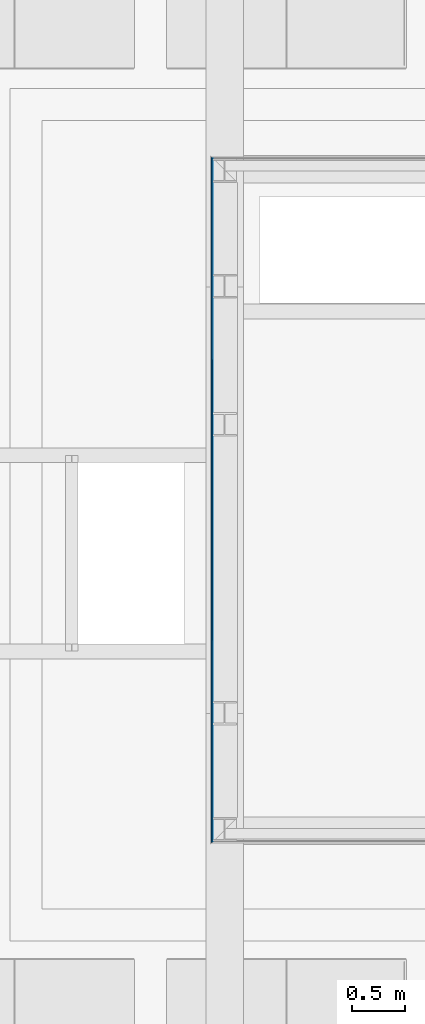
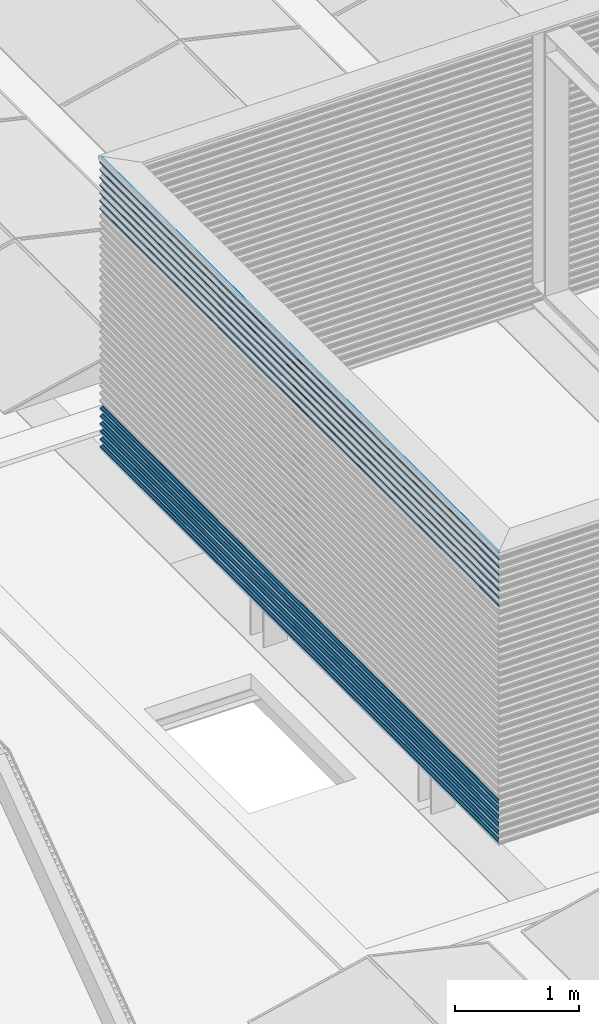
# One storey, part 25 of 63: 14 building element parts, 1 element without a shape of its own.
"""IFC2X3 building model written with IfcOpenShell, lengths in millimetres."""

from ifc_helpers import new_model, entity, si_unit, converted_unit, derived_unit, money_unit, direction, frame, origin_with_axes, place, context, subcontext, project, spatial, faceted_brep, material, type_object, element, aggregate, save


model = new_model("IFC2X3")

# Units and contexts
model_context = context("Model", 3, precision=0.01, world=origin_with_axes(), true_north=direction((0.0, 1.0)))
body_context = subcontext(model_context, "Body", "Model", "MODEL_VIEW")
ifc_project = project(units=[si_unit("LENGTHUNIT", "METRE", prefix="MILLI"), si_unit("AREAUNIT", "SQUARE_METRE"), si_unit("VOLUMEUNIT", "CUBIC_METRE"), converted_unit("PLANEANGLEUNIT", "DEGREE", entity("IfcPlaneAngleMeasure", 0.0174532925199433), si_unit("PLANEANGLEUNIT", "RADIAN"), dimensions=[0, 0, 0, 0, 0, 0, 0]), money_unit("EUR"), converted_unit("TIMEUNIT", "Year", entity("IfcTimeMeasure", 31557600.0), si_unit("TIMEUNIT", "SECOND"), dimensions=[0, 0, 1, 0, 0, 0, 0]), si_unit("MASSUNIT", "GRAM", prefix="KILO"), si_unit("THERMODYNAMICTEMPERATUREUNIT", "DEGREE_CELSIUS"), si_unit("LUMINOUSINTENSITYUNIT", "LUMEN"), si_unit("ENERGYUNIT", "JOULE", prefix="MEGA"), derived_unit("THERMALCONDUCTANCEUNIT", [(si_unit("POWERUNIT", "WATT"), 1), (si_unit("LENGTHUNIT", "METRE"), -1), (si_unit("THERMODYNAMICTEMPERATUREUNIT", "KELVIN"), -1)]), derived_unit("SPECIFICHEATCAPACITYUNIT", [(si_unit("ENERGYUNIT", "JOULE"), 1), (si_unit("MASSUNIT", "GRAM", prefix="KILO"), -1), (si_unit("THERMODYNAMICTEMPERATUREUNIT", "KELVIN"), -1)]), derived_unit("MASSDENSITYUNIT", [(si_unit("MASSUNIT", "GRAM", prefix="KILO"), 1), (si_unit("VOLUMEUNIT", "CUBIC_METRE"), -1)])], contexts=[model_context])

# Site, building, storey
site_placement = place(None, origin_with_axes())
site = spatial("IfcSite", under=ifc_project, at=site_placement, Name="<site naam>", CompositionType="ELEMENT")
building_placement = place(site_placement, origin_with_axes())
building = spatial("IfcBuilding", under=site, at=building_placement, Name="<Naam gebouw>", CompositionType="ELEMENT")
storey_placement = place(building_placement, frame((0.0, 0.0, 12770.0), z_axis=(0.0, 0.0, 1.0), x_axis=(1.0, 0.0, 0.0)))
storey = spatial("IfcBuildingStorey", under=building, at=storey_placement, Name="04 4e verdieping", CompositionType="ELEMENT", Elevation=12770.0)

# Wall, building element parts
wall_type = type_object("IfcWallType", Name="Gevelbeplating golf 18 x 2900", PredefinedType="NOTDEFINED")
wall_placement = place(storey_placement, frame((15871.99992141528, 13218.00009009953, 299.9552842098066), z_axis=(0.0, 0.0, 1.0), x_axis=(0.0, -1.0, 0.0)))
wall = element("IfcWall", 1, at=wall_placement, inside=storey, type_object=wall_type, Name="47_Binnenwand_Gevelbeplating")
ifc_material = material(Name="gevelafwerking type 3 - Aluminium RAL1036")
building_element_part_1_placement = place(wall_placement, origin_with_axes())
building_element_part_1 = element("IfcBuildingElementPart", 2, at=building_element_part_1_placement, material=ifc_material, Name="gevelafwerking type 3 - Aluminium RAL1036", context=body_context, shape_type="Brep", body=[
    faceted_brep([(17.99993332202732, 16.99993094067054, 2356.0), (17.99993332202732, 17.99993332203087, 2356.0), (6418.000235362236, 17.99993332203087, 2356.0), (6418.000235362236, 16.99993094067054, 2356.0), (15.62919619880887, 15.62919619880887, 2366.684488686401), (15.69993152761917, 14.77513041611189, 2366.365697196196), (15.62919619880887, 14.54417477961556, 2366.684488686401), (6420.370972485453, 15.62919619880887, 2366.684488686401), (6420.370972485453, 14.54417477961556, 2366.684488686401), (6420.300237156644, 14.77513041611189, 2366.365697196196), (6426.602118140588, 8.555185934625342, 2374.951121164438), (9.398050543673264, 8.555185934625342, 2374.951121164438), (9.041516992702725, 9.041516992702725, 2375.42412115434), (9.041516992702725, 8.2094871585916, 2375.42412115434), (6426.958651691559, 9.041516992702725, 2375.42412115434), (6426.958651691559, 8.2094871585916, 2375.42412115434), (6432.660115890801, 2.257292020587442, 2383.568220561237), (3.340052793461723, 2.257292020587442, 2383.568220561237), (3.11641171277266, 3.116411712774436, 2383.887674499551), (3.11641171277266, 2.188158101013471, 2383.887674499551), (6432.883756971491, 3.116411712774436, 2383.887674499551), (6432.883756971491, 2.188158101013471, 2383.887674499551), (6435.000235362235, -6.667796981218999e-05, 2394.0), (0.9999333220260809, -6.667796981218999e-05, 2394.0), (0.9999333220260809, 0.9999333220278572, 2394.0), (6435.000235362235, 0.9999333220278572, 2394.0)], [[[0, 1, 2, 3]], [[4, 1, 0, 5, 6]], [[1, 4, 7, 2]], [[3, 2, 7, 8, 9]], [[5, 0, 3, 9]], [[6, 5, 9, 8, 10, 11]], [[12, 4, 6, 11, 13]], [[4, 12, 14, 7]], [[7, 14, 15, 10, 8]], [[13, 11, 10, 15, 16, 17]], [[18, 12, 13, 17, 19]], [[12, 18, 20, 14]], [[14, 20, 21, 16, 15]], [[19, 17, 16, 21, 22, 23]], [[24, 18, 19, 23]], [[18, 24, 25, 20]], [[20, 25, 22, 21]], [[24, 23, 22, 25]]]),
])
building_element_part_2_placement = place(wall_placement, origin_with_axes())
building_element_part_2 = element("IfcBuildingElementPart", 3, at=building_element_part_2_placement, material=ifc_material, Name="gevelafwerking type 3 - Aluminium RAL1036", context=body_context, shape_type="Brep", body=[
    faceted_brep([(17.99993094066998, 16.99992855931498, 2432.0), (17.99993094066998, 17.99993094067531, 2432.0), (6418.000237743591, 17.99993094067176, 2432.0), (6418.000237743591, 16.99992855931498, 2432.0), (15.62919381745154, 15.62919381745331, 2442.6844886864), (15.69993278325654, 14.77512803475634, 2442.365680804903), (15.62919381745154, 14.54416052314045, 2442.6844886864), (6420.37097486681, 15.62919381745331, 2442.6844886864), (6420.300235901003, 14.77512803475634, 2442.365680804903), (6420.37097486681, 14.54416052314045, 2442.6844886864), (6426.602108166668, 8.555183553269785, 2450.951104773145), (9.39806051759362, 8.555183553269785, 2450.951104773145), (9.041514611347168, 9.041514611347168, 2451.424121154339), (9.041514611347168, 8.209472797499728, 2451.424121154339), (6426.958654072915, 9.041514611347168, 2451.424121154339), (6426.958654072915, 8.209472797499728, 2451.424121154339), (6432.660106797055, 2.257289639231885, 2459.568204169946), (3.340061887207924, 2.257289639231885, 2459.568204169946), (3.116409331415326, 3.116409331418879, 2459.887674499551), (3.116409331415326, 2.188161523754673, 2459.887674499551), (6432.883759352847, 3.116409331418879, 2459.887674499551), (6432.883759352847, 2.188161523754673, 2459.887674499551), (6435.000237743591, -6.905932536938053e-05, 2469.999999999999), (0.9999309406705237, -6.905932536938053e-05, 2469.999999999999), (0.9999309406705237, 0.9999309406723, 2469.999999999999), (6435.000237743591, 0.9999309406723, 2469.999999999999)], [[[0, 1, 2, 3]], [[4, 1, 0, 5, 6]], [[1, 4, 7, 2]], [[8, 3, 2, 7, 9]], [[5, 0, 3, 8]], [[6, 5, 8, 9, 10, 11]], [[12, 4, 6, 11, 13]], [[4, 12, 14, 7]], [[9, 7, 14, 15, 10]], [[13, 11, 10, 15, 16, 17]], [[18, 12, 13, 17, 19]], [[12, 18, 20, 14]], [[15, 14, 20, 21, 16]], [[19, 17, 16, 21, 22, 23]], [[24, 18, 19, 23]], [[18, 24, 25, 20]], [[21, 20, 25, 22]], [[24, 23, 22, 25]]]),
])
building_element_part_3_placement = place(wall_placement, origin_with_axes())
building_element_part_3 = element("IfcBuildingElementPart", 4, at=building_element_part_3_placement, material=ifc_material, Name="gevelafwerking type 3 - Aluminium RAL1036", context=body_context, shape_type="Brep", body=[
    faceted_brep([(17.99992617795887, 16.99992379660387, 2659.999999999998), (17.99992617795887, 17.99992617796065, 2659.999999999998), (6418.000242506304, 17.99992617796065, 2659.999999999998), (6418.000242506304, 16.99992379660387, 2659.999999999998), (15.62918905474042, 15.6291890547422, 2670.6844886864), (15.69992934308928, 14.77512327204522, 2670.365674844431), (15.62918905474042, 14.54415144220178, 2670.6844886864), (6420.370979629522, 15.6291890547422, 2670.6844886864), (6420.300239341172, 14.77512327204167, 2670.365674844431), (6420.370979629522, 14.54415144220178, 2670.6844886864), (6426.602108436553, 8.55517879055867, 2678.951098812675), (9.398060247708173, 8.55517879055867, 2678.951098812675), (9.041509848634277, 9.041509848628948, 2679.424121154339), (9.041509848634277, 8.209463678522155, 2679.424121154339), (6426.958658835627, 9.041509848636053, 2679.424121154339), (6426.958658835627, 8.209463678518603, 2679.424121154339), (6432.660107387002, 2.257284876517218, 2687.568198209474), (3.340061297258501, 2.257284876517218, 2687.568198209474), (3.116404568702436, 3.116404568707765, 2687.887674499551), (3.116404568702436, 2.188155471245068, 2687.887674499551), (6432.883764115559, 3.116404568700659, 2687.887674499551), (6432.883764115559, 2.188155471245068, 2687.887674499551), (6435.000242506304, -7.38220400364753e-05, 2697.999999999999), (0.999926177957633, -7.382203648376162e-05, 2697.999999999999), (0.999926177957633, 0.9999261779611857, 2697.999999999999), (6435.000242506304, 0.9999261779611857, 2697.999999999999)], [[[0, 1, 2, 3]], [[4, 1, 0, 5, 6]], [[1, 4, 7, 2]], [[8, 3, 2, 7, 9]], [[5, 0, 3, 8]], [[6, 5, 8, 9, 10, 11]], [[12, 4, 6, 11, 13]], [[4, 12, 14, 7]], [[9, 7, 14, 15, 10]], [[13, 11, 10, 15, 16, 17]], [[18, 12, 13, 17, 19]], [[12, 18, 20, 14]], [[15, 14, 20, 21, 16]], [[19, 17, 16, 21, 22, 23]], [[24, 18, 19, 23]], [[18, 24, 25, 20]], [[21, 20, 25, 22]], [[24, 23, 22, 25]]]),
])
building_element_part_4_placement = place(wall_placement, origin_with_axes())
building_element_part_4 = element("IfcBuildingElementPart", 5, at=building_element_part_4_placement, material=ifc_material, Name="gevelafwerking type 3 - Aluminium RAL1036", context=body_context, shape_type="Brep", body=[
    faceted_brep([(17.99992855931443, 16.99992617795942, 2507.999999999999), (17.99992855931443, 17.99992855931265, 2507.999999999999), (6418.000240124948, 17.99992855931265, 2507.999999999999), (6418.000240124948, 16.99992617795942, 2507.999999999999), (15.62919143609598, 15.62919143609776, 2518.6844886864), (15.69993403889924, 14.77512565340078, 2518.365664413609), (15.62919143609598, 14.54414626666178, 2518.6844886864), (6420.370977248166, 15.62919143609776, 2518.6844886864), (6420.300234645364, 14.77512565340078, 2518.365664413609), (6420.370977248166, 14.54414626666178, 2518.6844886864), (6426.602098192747, 8.555181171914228, 2526.951088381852), (9.398070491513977, 8.555181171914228, 2526.951088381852), (9.04151222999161, 9.04151222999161, 2527.42412115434), (9.04151222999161, 8.20949001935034, 2527.42412115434), (6426.958656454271, 9.04151222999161, 2527.42412115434), (6426.958656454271, 8.20949001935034, 2527.42412115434), (6432.660127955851, 2.257287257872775, 2535.568230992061), (3.340040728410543, 2.257287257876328, 2535.568230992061), (3.116406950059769, 3.116406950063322, 2535.88767449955), (3.116406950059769, 2.188155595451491, 2535.88767449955), (6432.883761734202, 3.116406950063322, 2535.88767449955), (6432.883761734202, 2.188155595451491, 2535.88767449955), (6435.000240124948, -7.144068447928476e-05, 2546.0), (0.9999285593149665, -7.144068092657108e-05, 2546.0), (0.9999285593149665, 0.9999285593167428, 2546.0), (6435.000240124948, 0.9999285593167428, 2546.0)], [[[0, 1, 2, 3]], [[4, 1, 0, 5, 6]], [[1, 4, 7, 2]], [[8, 3, 2, 7, 9]], [[5, 0, 3, 8]], [[6, 5, 8, 9, 10, 11]], [[12, 4, 6, 11, 13]], [[4, 12, 14, 7]], [[9, 7, 14, 15, 10]], [[13, 11, 10, 15, 16, 17]], [[18, 12, 13, 17, 19]], [[12, 18, 20, 14]], [[15, 14, 20, 21, 16]], [[19, 17, 16, 21, 22, 23]], [[24, 18, 19, 23]], [[18, 24, 25, 20]], [[21, 20, 25, 22]], [[24, 23, 22, 25]]]),
])
building_element_part_5_placement = place(wall_placement, origin_with_axes())
building_element_part_5 = element("IfcBuildingElementPart", 6, at=building_element_part_5_placement, material=ifc_material, Name="gevelafwerking type 3 - Aluminium RAL1036", context=body_context, shape_type="Brep", body=[
    faceted_brep([(17.99992617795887, 16.99992379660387, 2584.0), (17.99992617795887, 17.99992617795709, 2584.0), (6418.000242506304, 17.9999261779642, 2584.0), (6418.000242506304, 16.99992379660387, 2584.0), (15.62918905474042, 15.6291890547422, 2594.684488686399), (15.69992570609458, 14.77512327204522, 2594.365691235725), (15.62918905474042, 14.54416331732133, 2594.684488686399), (6420.370979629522, 15.6291890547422, 2594.684488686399), (6420.300242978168, 14.77512327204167, 2594.365691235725), (6420.370979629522, 14.54416331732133, 2594.684488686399), (6426.602120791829, 8.555178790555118, 2602.951115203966), (9.39804789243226, 8.55517879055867, 2602.951115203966), (9.041509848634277, 9.041509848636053, 2603.424121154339), (9.041509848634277, 8.209475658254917, 2603.424121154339), (6426.958658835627, 9.041509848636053, 2603.424121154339), (6426.958658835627, 8.209475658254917, 2603.424121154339), (6432.660118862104, 2.257284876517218, 2611.568214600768), (3.340049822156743, 2.257284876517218, 2611.568214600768), (3.116404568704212, 3.116404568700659, 2611.887674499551), (3.116404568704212, 2.18815901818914, 2611.887674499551), (6432.883764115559, 3.116404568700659, 2611.887674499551), (6432.883764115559, 2.18815901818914, 2611.887674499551), (6435.000242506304, -7.38220400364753e-05, 2622.0), (0.999926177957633, -7.382203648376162e-05, 2622.0), (0.999926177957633, 0.9999261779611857, 2622.0), (6435.000242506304, 0.9999261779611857, 2622.0)], [[[0, 1, 2, 3]], [[4, 1, 0, 5, 6]], [[1, 4, 7, 2]], [[8, 3, 2, 7, 9]], [[5, 0, 3, 8]], [[6, 5, 8, 9, 10, 11]], [[12, 4, 6, 11, 13]], [[4, 12, 14, 7]], [[9, 7, 14, 15, 10]], [[13, 11, 10, 15, 16, 17]], [[18, 12, 13, 17, 19]], [[12, 18, 20, 14]], [[15, 14, 20, 21, 16]], [[19, 17, 16, 21, 22, 23]], [[24, 18, 19, 23]], [[18, 24, 25, 20]], [[21, 20, 25, 22]], [[24, 23, 22, 25]]]),
])
building_element_part_6_placement = place(wall_placement, origin_with_axes())
building_element_part_6 = element("IfcBuildingElementPart", 7, at=building_element_part_6_placement, material=ifc_material, Name="gevelafwerking type 3 - Aluminium RAL1036", context=body_context, shape_type="Brep", body=[
    faceted_brep([(17.99992379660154, 16.99992141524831, 2735.999999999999), (17.99992379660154, 17.99992379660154, 2735.999999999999), (6418.000244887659, 17.99992379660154, 2735.999999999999), (6418.000244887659, 16.99992141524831, 2735.999999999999), (15.62918667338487, 15.62918667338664, 2746.6844886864), (15.69992101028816, 14.77512089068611, 2746.365701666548), (15.62918667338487, 14.54416849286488, 2746.6844886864), (6420.370982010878, 15.62918667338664, 2746.6844886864), (6420.370982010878, 14.54416849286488, 2746.6844886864), (6420.300247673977, 14.77512089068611, 2746.365701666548), (6426.602131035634, 8.555176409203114, 2754.95112563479), (9.398037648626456, 8.555176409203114, 2754.95112563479), (9.04150746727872, 9.041507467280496, 2755.424121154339), (9.04150746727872, 8.209480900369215, 2755.424121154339), (6426.958661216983, 9.041507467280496, 2755.424121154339), (6426.958661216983, 8.209480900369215, 2755.424121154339), (6432.660128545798, 2.257282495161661, 2763.568225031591), (3.340040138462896, 2.257282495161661, 2763.568225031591), (3.116402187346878, 3.116402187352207, 2763.887674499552), (3.116402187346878, 2.188149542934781, 2763.887674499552), (6432.883766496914, 3.116402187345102, 2763.887674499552), (6432.883766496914, 2.188149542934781, 2763.887674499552), (6435.00024488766, -7.620339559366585e-05, 2773.999999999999), (0.9999237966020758, -7.620339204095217e-05, 2773.999999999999), (0.9999237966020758, 0.9999237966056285, 2773.999999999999), (6435.00024488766, 0.9999237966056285, 2773.999999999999)], [[[0, 1, 2, 3]], [[4, 1, 0, 5, 6]], [[1, 4, 7, 2]], [[3, 2, 7, 8, 9]], [[5, 0, 3, 9]], [[6, 5, 9, 8, 10, 11]], [[12, 4, 6, 11, 13]], [[4, 12, 14, 7]], [[7, 14, 15, 10, 8]], [[13, 11, 10, 15, 16, 17]], [[18, 12, 13, 17, 19]], [[12, 18, 20, 14]], [[14, 20, 21, 16, 15]], [[19, 17, 16, 21, 22, 23]], [[24, 18, 19, 23]], [[18, 24, 25, 20]], [[20, 25, 22, 21]], [[24, 23, 22, 25]]]),
])
building_element_part_7_placement = place(wall_placement, origin_with_axes())
building_element_part_7 = element("IfcBuildingElementPart", 8, at=building_element_part_7_placement, material=ifc_material, Name="gevelafwerking type 3 - Aluminium RAL1036", context=body_context, shape_type="Brep", body=[
    faceted_brep([(15.62926287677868, 15.62926287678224, 65.31551131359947), (17.99999999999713, 18.00000000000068, 76.00000000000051), (6418.000168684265, 18.00000000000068, 76.00000000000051), (6420.370905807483, 15.62926287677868, 65.31551131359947), (17.99999999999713, 16.9999976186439, 76.00000000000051), (15.62926287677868, 14.5442441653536, 65.31551131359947), (15.69999688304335, 14.7751970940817, 65.634296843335), (6418.000168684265, 16.9999976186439, 76.00000000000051), (6420.300171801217, 14.7751970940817, 65.634296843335), (6420.370905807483, 14.5442441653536, 65.31551131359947), (9.041583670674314, 9.04158367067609, 56.57587884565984), (6426.958585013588, 9.041583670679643, 56.57587884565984), (9.041583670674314, 8.209560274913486, 56.57587884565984), (9.39811272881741, 8.555252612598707, 57.04887287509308), (6426.602055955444, 8.555252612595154, 57.04887287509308), (6426.958585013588, 8.209560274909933, 56.57587884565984), (3.116478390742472, 3.116478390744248, 48.11232550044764), (6432.88369029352, 3.116478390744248, 48.11232550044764), (3.116478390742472, 2.188232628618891, 48.11232550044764), (3.340115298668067, 2.257358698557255, 48.43177347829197), (6432.660053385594, 2.257358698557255, 48.43177347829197), (6432.88369029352, 2.188232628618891, 48.11232550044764), (0.9999999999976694, 0.9999999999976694, 38.00000000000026), (6435.000168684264, 0.9999999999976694, 38.00000000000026), (0.9999999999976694, 0.0, 38.00000000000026), (6435.000168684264, 0.0, 38.00000000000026)], [[[0, 1, 2, 3]], [[4, 1, 0, 5, 6]], [[1, 4, 7, 2]], [[3, 2, 7, 8, 9]], [[10, 0, 3, 11]], [[0, 10, 12, 13, 5]], [[5, 13, 14, 9, 8, 6]], [[4, 6, 8, 7]], [[11, 3, 9, 14, 15]], [[16, 10, 11, 17]], [[10, 16, 18, 19, 12]], [[12, 19, 20, 15, 14, 13]], [[17, 11, 15, 20, 21]], [[22, 16, 17, 23]], [[16, 22, 24, 18]], [[18, 24, 25, 21, 20, 19]], [[23, 17, 21, 25]], [[24, 22, 23, 25]]]),
])
building_element_part_8_placement = place(wall_placement, origin_with_axes())
building_element_part_8 = element("IfcBuildingElementPart", 9, at=building_element_part_8_placement, material=ifc_material, Name="gevelafwerking type 3 - Aluminium RAL1036", context=body_context, shape_type="Brep", body=[
    faceted_brep([(17.99992141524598, 16.99991903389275, 2812.0), (17.99992141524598, 17.99992141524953, 2812.0), (6418.000247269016, 17.99992141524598, 2812.0), (6418.000247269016, 16.99991903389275, 2812.0), (15.62918429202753, 15.62918429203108, 2822.684488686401), (15.69992226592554, 14.77511850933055, 2822.365685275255), (15.62918429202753, 14.54415423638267, 2822.684488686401), (6420.370984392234, 15.62918429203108, 2822.684488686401), (6420.370984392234, 14.54415423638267, 2822.684488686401), (6420.300246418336, 14.77511850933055, 2822.365685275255), (6426.602121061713, 8.555174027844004, 2830.951109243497), (9.398047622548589, 8.555174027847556, 2830.951109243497), (9.041505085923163, 9.041505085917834, 2831.42412115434), (9.041505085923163, 8.209466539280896, 2831.42412115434), (6426.95866359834, 9.041505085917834, 2831.42412115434), (6426.95866359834, 8.209466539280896, 2831.42412115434), (6432.660119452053, 2.257280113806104, 2839.568208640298), (3.340049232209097, 2.257280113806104, 2839.568208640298), (3.116399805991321, 3.116399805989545, 2839.88767449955), (3.116399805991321, 2.188152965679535, 2839.88767449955), (6432.883768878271, 3.116399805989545, 2839.88767449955), (6432.883768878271, 2.188152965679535, 2839.88767449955), (6435.000247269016, -7.858475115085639e-05, 2850.0), (0.9999214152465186, -7.858475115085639e-05, 2850.0), (0.9999214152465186, 0.9999214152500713, 2850.0), (6435.000247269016, 0.9999214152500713, 2850.0)], [[[0, 1, 2, 3]], [[4, 1, 0, 5, 6]], [[1, 4, 7, 2]], [[3, 2, 7, 8, 9]], [[5, 0, 3, 9]], [[6, 5, 9, 8, 10, 11]], [[12, 4, 6, 11, 13]], [[4, 12, 14, 7]], [[7, 14, 15, 10, 8]], [[13, 11, 10, 15, 16, 17]], [[18, 12, 13, 17, 19]], [[12, 18, 20, 14]], [[14, 20, 21, 16, 15]], [[19, 17, 16, 21, 22, 23]], [[24, 18, 19, 23]], [[18, 24, 25, 20]], [[20, 25, 22, 21]], [[24, 23, 22, 25]]]),
])
building_element_part_9_placement = place(wall_placement, origin_with_axes())
building_element_part_9 = element("IfcBuildingElementPart", 10, at=building_element_part_9_placement, material=ifc_material, Name="gevelafwerking type 3 - Aluminium RAL1036", context=body_context, shape_type="Brep", body=[
    faceted_brep([(6418.000247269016, 16.99991903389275, 2888.0), (17.99992141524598, 16.99991903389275, 2888.0), (17.99992141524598, 17.99992141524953, 2888.0), (6418.000247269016, 17.99992141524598, 2888.0), (6421.023737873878, 13.97637062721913, 2900.0), (14.97643081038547, 13.97637062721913, 2900.0), (14.97643081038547, 14.97643081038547, 2900.0), (6421.023737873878, 14.97643081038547, 2900.0)], [[[0, 1, 2, 3]], [[4, 5, 1, 0]], [[5, 6, 2, 1]], [[3, 2, 6, 7]], [[4, 0, 3, 7]], [[7, 6, 5, 4]]]),
])
building_element_part_10_placement = place(wall_placement, origin_with_axes())
building_element_part_10 = element("IfcBuildingElementPart", 11, at=building_element_part_10_placement, material=ifc_material, Name="gevelafwerking type 3 - Aluminium RAL1036", context=body_context, shape_type="Brep", body=[
    faceted_brep([(15.62925811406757, 15.62925811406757, 217.3155113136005), (17.99999523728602, 17.99999523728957, 227.9999999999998), (6418.000173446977, 17.99999523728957, 227.9999999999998), (6420.370910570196, 15.62925811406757, 217.3155113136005), (17.99999523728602, 16.99999285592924, 227.9999999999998), (15.62925811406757, 14.54423184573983, 217.3155113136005), (15.69999443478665, 14.77519233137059, 217.6343072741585), (6418.000173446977, 16.99999285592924, 227.9999999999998), (6420.370910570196, 14.54423184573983, 217.3155113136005), (6420.300174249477, 14.77519233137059, 217.6343072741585), (9.041578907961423, 9.041578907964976, 208.5758788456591), (6426.9585897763, 9.041578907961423, 208.5758788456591), (9.041578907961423, 8.20954788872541, 208.5758788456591), (9.398115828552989, 8.55524784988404, 209.0488833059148), (6426.60205285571, 8.55524784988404, 209.0488833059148), (6426.9585897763, 8.209547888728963, 208.5758788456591), (3.116473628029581, 3.116473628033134, 200.1123255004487), (6432.883695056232, 3.116473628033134, 200.1123255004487), (3.116473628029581, 2.188225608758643, 200.1123255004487), (3.340117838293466, 2.25735393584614, 200.4317839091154), (6432.660050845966, 2.25735393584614, 200.4317839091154), (6432.883695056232, 2.188225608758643, 200.1123255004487), (0.9999952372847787, 0.999995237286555, 189.9999999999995), (6435.000173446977, 0.999995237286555, 189.9999999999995), (0.9999952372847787, -4.762711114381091e-06, 189.9999999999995), (6435.000173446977, -4.762711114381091e-06, 189.9999999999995)], [[[0, 1, 2, 3]], [[4, 1, 0, 5, 6]], [[1, 4, 7, 2]], [[8, 3, 2, 7, 9]], [[10, 0, 3, 11]], [[0, 10, 12, 13, 5]], [[5, 13, 14, 8, 9, 6]], [[4, 6, 9, 7]], [[15, 11, 3, 8, 14]], [[16, 10, 11, 17]], [[10, 16, 18, 19, 12]], [[12, 19, 20, 15, 14, 13]], [[21, 17, 11, 15, 20]], [[22, 16, 17, 23]], [[16, 22, 24, 18]], [[18, 24, 25, 21, 20, 19]], [[25, 23, 17, 21]], [[24, 22, 23, 25]]]),
])
building_element_part_11_placement = place(wall_placement, origin_with_axes())
building_element_part_11 = element("IfcBuildingElementPart", 12, at=building_element_part_11_placement, material=ifc_material, Name="gevelafwerking type 3 - Aluminium RAL1036", context=body_context, shape_type="Brep", body=[
    faceted_brep([(15.62926049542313, 15.62926049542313, 141.3155113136), (17.99999761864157, 17.99999761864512, 151.9999999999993), (6418.000171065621, 17.99999761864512, 151.9999999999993), (6420.370908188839, 15.62926049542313, 141.3155113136), (17.99999761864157, 16.99999523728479, 151.9999999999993), (15.62926049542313, 14.54422235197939, 141.3155113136), (15.70000045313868, 14.77519471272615, 141.6343236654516), (6418.000171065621, 16.99999523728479, 151.9999999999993), (6420.370908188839, 14.54422235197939, 141.3155113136), (6420.300168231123, 14.77519471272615, 141.6343236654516), (9.041581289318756, 9.041581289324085, 132.5758788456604), (6426.958587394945, 9.041581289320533, 132.5758788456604), (9.041581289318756, 8.209538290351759, 132.5758788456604), (9.398130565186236, 8.555250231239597, 133.0488996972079), (6426.602038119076, 8.555250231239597, 133.0488996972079), (6426.958587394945, 8.209538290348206, 132.5758788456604), (3.116476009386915, 3.116476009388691, 124.1123255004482), (6432.883692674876, 3.116476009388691, 124.1123255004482), (3.116476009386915, 2.188224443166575, 124.1123255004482), (3.340131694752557, 2.257356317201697, 124.4318003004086), (6432.66003698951, 2.257356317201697, 124.4318003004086), (6432.883692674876, 2.188224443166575, 124.1123255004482), (0.9999976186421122, 0.9999976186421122, 114.0000000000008), (6435.000171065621, 0.9999976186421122, 114.0000000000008), (0.9999976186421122, -2.381355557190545e-06, 114.0000000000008), (6435.000171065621, -2.381362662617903e-06, 114.0000000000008)], [[[0, 1, 2, 3]], [[4, 1, 0, 5, 6]], [[1, 4, 7, 2]], [[8, 3, 2, 7, 9]], [[10, 0, 3, 11]], [[0, 10, 12, 13, 5]], [[5, 13, 14, 8, 9, 6]], [[4, 6, 9, 7]], [[15, 11, 3, 8, 14]], [[16, 10, 11, 17]], [[10, 16, 18, 19, 12]], [[12, 19, 20, 15, 14, 13]], [[21, 17, 11, 15, 20]], [[22, 16, 17, 23]], [[16, 22, 24, 18]], [[18, 24, 25, 21, 20, 19]], [[25, 23, 17, 21]], [[24, 22, 23, 25]]]),
])
building_element_part_12_placement = place(wall_placement, origin_with_axes())
building_element_part_12 = element("IfcBuildingElementPart", 13, at=building_element_part_12_placement, material=ifc_material, Name="gevelafwerking type 3 - Aluminium RAL1036", context=body_context, shape_type="Brep", body=[
    faceted_brep([(15.62925335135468, 15.62925335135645, 445.3155113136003), (17.99999047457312, 17.9999904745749, 455.9999999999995), (6418.000178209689, 17.9999904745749, 455.9999999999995), (6420.370915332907, 15.62925335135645, 445.3155113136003), (17.99999047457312, 16.99998809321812, 455.9999999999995), (15.62925335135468, 14.54423140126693, 445.3155113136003), (15.6999883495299, 14.77518756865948, 445.634301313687), (6418.000178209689, 16.99998809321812, 455.9999999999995), (6420.300180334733, 14.77518756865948, 445.634301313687), (6420.370915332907, 14.54423140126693, 445.3155113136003), (9.041574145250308, 9.041574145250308, 436.5758788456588), (6426.958594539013, 9.041574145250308, 436.5758788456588), (9.041574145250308, 8.209547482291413, 436.5758788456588), (9.398106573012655, 8.555243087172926, 437.0488773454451), (6426.602062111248, 8.555243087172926, 437.0488773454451), (6426.958594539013, 8.209547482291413, 436.5758788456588), (3.116468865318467, 3.11646886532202, 428.1123255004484), (6432.883699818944, 3.11646886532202, 428.1123255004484), (3.116468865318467, 2.188222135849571, 428.1123255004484), (3.340108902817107, 2.257349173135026, 428.431777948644), (6432.660059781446, 2.257349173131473, 428.431777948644), (6432.883699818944, 2.188222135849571, 428.1123255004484), (0.9999904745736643, 0.9999904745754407, 417.9999999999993), (6435.00017820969, 0.9999904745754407, 417.9999999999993), (0.9999904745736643, -9.525422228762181e-06, 417.9999999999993), (6435.00017820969, -9.52542578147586e-06, 417.9999999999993)], [[[0, 1, 2, 3]], [[4, 1, 0, 5, 6]], [[1, 4, 7, 2]], [[3, 2, 7, 8, 9]], [[10, 0, 3, 11]], [[0, 10, 12, 13, 5]], [[5, 13, 14, 9, 8, 6]], [[4, 6, 8, 7]], [[11, 3, 9, 14, 15]], [[16, 10, 11, 17]], [[10, 16, 18, 19, 12]], [[12, 19, 20, 15, 14, 13]], [[17, 11, 15, 20, 21]], [[22, 16, 17, 23]], [[16, 22, 24, 18]], [[18, 24, 25, 21, 20, 19]], [[23, 17, 21, 25]], [[24, 22, 23, 25]]]),
])
building_element_part_13_placement = place(wall_placement, origin_with_axes())
building_element_part_13 = element("IfcBuildingElementPart", 14, at=building_element_part_13_placement, material=ifc_material, Name="gevelafwerking type 3 - Aluminium RAL1036", context=body_context, shape_type="Brep", body=[
    faceted_brep([(15.62925573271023, 15.62925573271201, 293.3155113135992), (17.99999285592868, 17.99999285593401, 304.0000000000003), (6418.000175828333, 17.99999285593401, 304.0000000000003), (6420.370912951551, 15.62925573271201, 293.3155113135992), (17.99999285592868, 16.99999047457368, 304.0000000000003), (15.62925573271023, 14.54421003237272, 293.3155113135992), (15.69999800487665, 14.77518995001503, 293.6343340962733), (6418.000175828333, 16.99999047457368, 304.0000000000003), (6420.370912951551, 14.54421003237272, 293.3155113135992), (6420.300170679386, 14.77518995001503, 293.6343340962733), (9.041576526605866, 9.041576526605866, 284.5758788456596), (6426.958592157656, 9.041576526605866, 284.5758788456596), (9.041576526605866, 8.209525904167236, 284.5758788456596), (9.398133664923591, 8.555245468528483, 285.0489101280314), (6426.602035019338, 8.555245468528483, 285.0489101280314), (6426.958592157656, 8.209525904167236, 284.5758788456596), (3.116471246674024, 3.116471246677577, 276.1123255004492), (6432.883697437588, 3.116471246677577, 276.1123255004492), (3.116471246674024, 2.188217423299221, 276.1123255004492), (3.340134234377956, 2.257351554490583, 276.4318107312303), (6432.660034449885, 2.257351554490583, 276.4318107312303), (6432.883697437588, 2.188217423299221, 276.1123255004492), (0.9999928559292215, 0.9999928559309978, 266.0), (6435.000175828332, 0.9999928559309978, 266.0), (0.9999928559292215, -7.144066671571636e-06, 266.0), (6435.000175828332, -7.144066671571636e-06, 266.0)], [[[0, 1, 2, 3]], [[4, 1, 0, 5, 6]], [[1, 4, 7, 2]], [[8, 3, 2, 7, 9]], [[10, 0, 3, 11]], [[0, 10, 12, 13, 5]], [[5, 13, 14, 8, 9, 6]], [[4, 6, 9, 7]], [[15, 11, 3, 8, 14]], [[16, 10, 11, 17]], [[10, 16, 18, 19, 12]], [[12, 19, 20, 15, 14, 13]], [[21, 17, 11, 15, 20]], [[22, 16, 17, 23]], [[16, 22, 24, 18]], [[18, 24, 25, 21, 20, 19]], [[25, 23, 17, 21]], [[24, 22, 23, 25]]]),
])
building_element_part_14_placement = place(wall_placement, origin_with_axes())
building_element_part_14 = element("IfcBuildingElementPart", 15, at=building_element_part_14_placement, material=ifc_material, Name="gevelafwerking type 3 - Aluminium RAL1036", context=body_context, shape_type="Brep", body=[
    faceted_brep([(15.62925335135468, 15.62925335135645, 369.3155113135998), (17.99999047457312, 17.99999047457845, 380.0000000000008), (6418.000178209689, 17.99999047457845, 380.0000000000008), (6420.370915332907, 15.62925335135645, 369.3155113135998), (17.99999047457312, 16.99998809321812, 380.0000000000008), (15.62925335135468, 14.54421952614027, 369.3155113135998), (15.69999198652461, 14.77518756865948, 369.6343177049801), (6418.000178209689, 16.99998809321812, 380.0000000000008), (6420.370915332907, 14.54421952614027, 369.3155113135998), (6420.300176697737, 14.77518756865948, 369.6343177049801), (9.041574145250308, 9.041574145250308, 360.5758788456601), (6426.958594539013, 9.041574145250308, 360.5758788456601), (9.041574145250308, 8.209535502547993, 360.5758788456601), (9.398118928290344, 8.555243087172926, 361.0488937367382), (6426.602049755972, 8.555243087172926, 361.0488937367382), (6426.958594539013, 8.209535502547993, 360.5758788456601), (3.116468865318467, 3.11646886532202, 352.1123255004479), (6432.883699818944, 3.11646886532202, 352.1123255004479), (3.116468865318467, 2.188218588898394, 352.1123255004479), (3.340120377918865, 2.257349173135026, 352.4317943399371), (6432.660048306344, 2.257349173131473, 352.4317943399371), (6432.883699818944, 2.188218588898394, 352.1123255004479), (0.9999904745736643, 0.9999904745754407, 342.0000000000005), (6435.00017820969, 0.9999904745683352, 342.0000000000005), (0.9999904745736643, -9.525422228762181e-06, 342.0000000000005), (6435.00017820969, -9.525422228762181e-06, 342.0000000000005)], [[[0, 1, 2, 3]], [[4, 1, 0, 5, 6]], [[1, 4, 7, 2]], [[8, 3, 2, 7, 9]], [[10, 0, 3, 11]], [[0, 10, 12, 13, 5]], [[5, 13, 14, 8, 9, 6]], [[4, 6, 9, 7]], [[15, 11, 3, 8, 14]], [[16, 10, 11, 17]], [[10, 16, 18, 19, 12]], [[12, 19, 20, 15, 14, 13]], [[21, 17, 11, 15, 20]], [[22, 16, 17, 23]], [[16, 22, 24, 18]], [[18, 24, 25, 21, 20, 19]], [[25, 23, 17, 21]], [[24, 22, 23, 25]]]),
])
aggregate(wall, [building_element_part_1, building_element_part_2, building_element_part_3, building_element_part_4, building_element_part_5, building_element_part_6, building_element_part_7, building_element_part_8, building_element_part_9, building_element_part_10, building_element_part_11, building_element_part_12, building_element_part_13, building_element_part_14])

save(model, "model.ifc")
